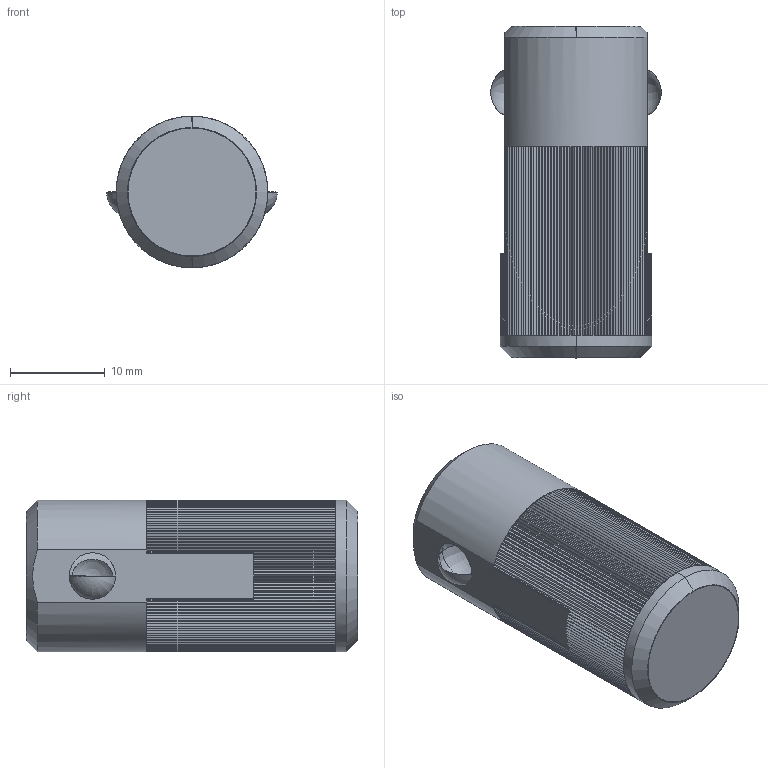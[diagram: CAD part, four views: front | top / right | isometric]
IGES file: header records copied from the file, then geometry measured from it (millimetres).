
Start section: SolidWorks IGES file using analytic representation for surfaces
Global section: file name: C:\Documents and Settings\IANO\Desktop\Temp File\Process pending\NEW\32800_v2\32800_v2_20170703_IGES\32800.W0616.igs; native system: SolidWorks 2009; preprocessor: SolidWorks 2009; author: IANO; date: 170630.125156; units: millimetre
Bounding box: 18 x 35 x 16 mm (x, y, z)
Surface area: 5739.3 mm2 (no closed solid volume)
Topology: 0 solids, 0 shells, 598 faces, 3110 edges, 3102 vertices
Faces by surface type: bspline 569, revolution 29
